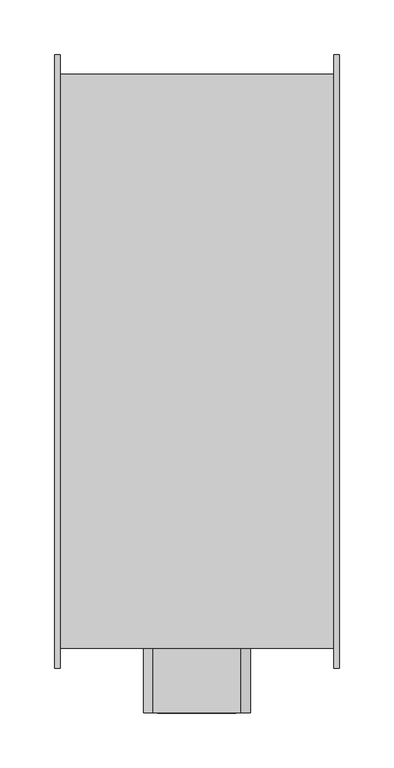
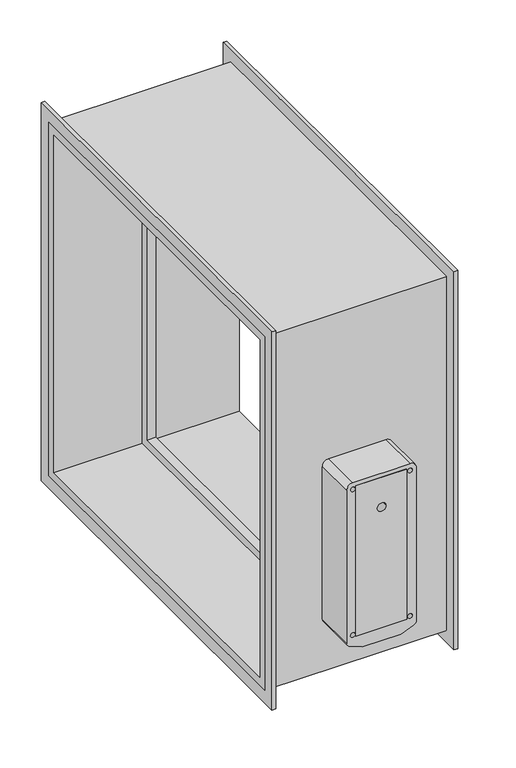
"""IFC4 building model written with IfcOpenShell, lengths in millimetres: damper geometry, APMV_Виктория_КПВ.01_Морозостойкий_Прямоугольный_1 : КПВ.01МС-НЗ."""

from ifc_helpers import new_model, si_unit, point, frame, frame_2d, origin, origin_2d, place, context, project, spatial, polyline, circle_curve, trimmed, segment, composite_curve, outline, extrude, source, transform, mapped, element, save


def damper_b53475d5(model_context):
    return source(origin(), model_context, "Body", "SweptSolid", [
        extrude(outline(polyline([(-178.8039852, -36.0304177), (-178.8039852, 35.4620507), (43.8152272, 35.4620507), (43.8152272, -36.0304177), (-178.8039852, -36.0304177)]), holes=[composite_curve([segment(trimmed(circle_curve(origin_2d(), 6.1), [point((0.0, 6.1))], [point((0.0, -6.1))], True, "CARTESIAN"), True, "CONTINUOUS"), segment(trimmed(circle_curve(origin_2d(), 6.1), [point((0.0, -6.1))], [point((0.0, 6.1))], True, "CARTESIAN"), True, "CONTINUOUS")], self_intersect=False)]), frame((0.0, -321.0, 0.0), z_axis=(0.0, 1.0, 0.0), x_axis=(0.0, 0.0, 1.0)), (0.0, 0.0, 1.0), 59.0),
        extrude(outline(composite_curve([segment(polyline([(-198.0, -26.8313883), (-198.0, 26.8313883), (-190.7463796, 44.7847289)]), True, "CONTINUOUS"), segment(trimmed(circle_curve(frame_2d((-184.5127134, 42.3142167)), 6.7053728), [point((-190.7463796, 44.7847289))], [point((-185.0248912, 49.0))], False, "CARTESIAN"), True, "CONTINUOUS"), segment(polyline([(-185.0248912, 49.0), (41.0, 49.0)]), True, "CONTINUOUS"), segment(trimmed(circle_curve(frame_2d((41.0, 40.0)), 9.0), [point((41.0, 49.0))], [point((50.0, 40.0))], False, "CARTESIAN"), True, "CONTINUOUS"), segment(polyline([(50.0, 40.0), (50.0, -40.0)]), True, "CONTINUOUS"), segment(trimmed(circle_curve(frame_2d((41.0, -40.0)), 9.0), [point((50.0, -40.0))], [point((41.0, -49.0))], False, "CARTESIAN"), True, "CONTINUOUS"), segment(polyline([(41.0, -49.0), (-185.0248912, -49.0)]), True, "CONTINUOUS"), segment(trimmed(circle_curve(frame_2d((-184.5127134, -42.3142167)), 6.7053728), [point((-185.0248912, -49.0))], [point((-190.7463796, -44.7847289))], False, "CARTESIAN"), True, "CONTINUOUS"), segment(polyline([(-190.7463796, -44.7847289), (-198.0, -26.8313883)]), True, "CONTINUOUS")], self_intersect=False), holes=[composite_curve([segment(trimmed(circle_curve(frame_2d((-175.6, 40.0)), 3.25), [point((-175.6, 43.25))], [point((-175.6, 36.75))], True, "CARTESIAN"), True, "CONTINUOUS"), segment(trimmed(circle_curve(frame_2d((-175.6, 40.0)), 3.25), [point((-175.6, 36.75))], [point((-175.6, 43.25))], True, "CARTESIAN"), True, "CONTINUOUS")], self_intersect=False), composite_curve([segment(trimmed(circle_curve(frame_2d((-175.6, -40.0)), 3.25), [point((-175.6, -36.75))], [point((-175.6, -43.25))], True, "CARTESIAN"), True, "CONTINUOUS"), segment(trimmed(circle_curve(frame_2d((-175.6, -40.0)), 3.25), [point((-175.6, -43.25))], [point((-175.6, -36.75))], True, "CARTESIAN"), True, "CONTINUOUS")], self_intersect=False), composite_curve([segment(trimmed(circle_curve(frame_2d((40.0, -40.0)), 3.25), [point((40.0, -36.75))], [point((40.0, -43.25))], True, "CARTESIAN"), True, "CONTINUOUS"), segment(trimmed(circle_curve(frame_2d((40.0, -40.0)), 3.25), [point((40.0, -43.25))], [point((40.0, -36.75))], True, "CARTESIAN"), True, "CONTINUOUS")], self_intersect=False), composite_curve([segment(trimmed(circle_curve(frame_2d((40.0, 40.0)), 3.25), [point((40.0, 43.25))], [point((40.0, 36.75))], True, "CARTESIAN"), True, "CONTINUOUS"), segment(trimmed(circle_curve(frame_2d((40.0, 40.0)), 3.25), [point((40.0, 36.75))], [point((40.0, 43.25))], True, "CARTESIAN"), True, "CONTINUOUS")], self_intersect=False), composite_curve([segment(trimmed(circle_curve(origin_2d(), 6.1), [point((0.0, 6.1))], [point((0.0, -6.1))], True, "CARTESIAN"), True, "CONTINUOUS"), segment(trimmed(circle_curve(origin_2d(), 6.1), [point((0.0, -6.1))], [point((0.0, 6.1))], True, "CARTESIAN"), True, "CONTINUOUS")], self_intersect=False)]), frame((0.0, -320.6, 0.0), z_axis=(0.0, 1.0, 0.0), x_axis=(0.0, 0.0, 1.0)), (0.0, 0.0, 1.0), 58.6),
        extrude(outline(polyline([(262.0, 262.0), (262.0, -262.0), (-262.0, -262.0), (-262.0, 262.0), (262.0, 262.0)]), holes=[polyline([(-250.0, -250.0), (250.0, -250.0), (250.0, 250.0), (-250.0, 250.0), (-250.0, -250.0)])]), frame((-130.0, 0.0, 0.0), z_axis=(1.0, 0.0, 0.0), x_axis=(0.0, 1.0, 0.0)), (0.0, 0.0, 1.0), 260.0),
        extrude(outline(polyline([(280.0, 280.0), (280.0, -280.0), (-280.0, -280.0), (-280.0, 280.0), (280.0, 280.0)]), holes=[polyline([(250.0, 250.0), (-250.0, 250.0), (-250.0, -250.0), (250.0, -250.0), (250.0, 250.0)])]), frame((125.0, 0.0, 0.0), z_axis=(1.0, 0.0, 0.0), x_axis=(0.0, 1.0, 0.0)), (0.0, 0.0, 1.0), 5.0),
        extrude(outline(polyline([(280.0, 280.0), (280.0, -280.0), (-280.0, -280.0), (-280.0, 280.0), (280.0, 280.0)]), holes=[polyline([(250.0, 250.0), (-250.0, 250.0), (-250.0, -250.0), (250.0, -250.0), (250.0, 250.0)])]), frame((-130.0, 0.0, 0.0), z_axis=(1.0, 0.0, 0.0), x_axis=(0.0, 1.0, 0.0)), (0.0, 0.0, 1.0), 5.0),
        extrude(outline(polyline([(-250.0, 250.0), (250.0, 250.0), (250.0, -250.0), (-250.0, -250.0), (-250.0, 250.0)]), holes=[polyline([(-238.0, -238.0), (238.0, -238.0), (238.0, 238.0), (-238.0, 238.0), (-238.0, -238.0)])]), frame((-6.0, 0.0, 0.0), z_axis=(1.0, 0.0, 0.0), x_axis=(0.0, 1.0, 0.0)), (0.0, 0.0, 1.0), 12.0),
    ])


if __name__ == "__main__":
    model = new_model("IFC4")
    model_context = context("Model", 3, world=origin())
    ifc_project = project(units=[si_unit("LENGTHUNIT", "METRE", prefix="MILLI")], contexts=[model_context])
    site = spatial("IfcSite", under=ifc_project)
    building = spatial("IfcBuilding", under=site)
    placement = place(None, origin())
    damper_shape = damper_b53475d5(model_context)
    element("IfcDamper", 1, ObjectType="APMV_Виктория_КПВ.01_Морозостойкий_Прямоугольный_1 : КПВ.01МС-НЗ", at=placement, inside=building, context=model_context, shape_type="MappedRepresentation", body=[
        mapped(damper_shape, transform((0.0, 0.0, 0.0), x_axis=(1.0, 0.0, 0.0), y_axis=(0.0, 1.0, 0.0), z_axis=(0.0, 0.0, 1.0))),
    ])
    save(model, "model.ifc")
